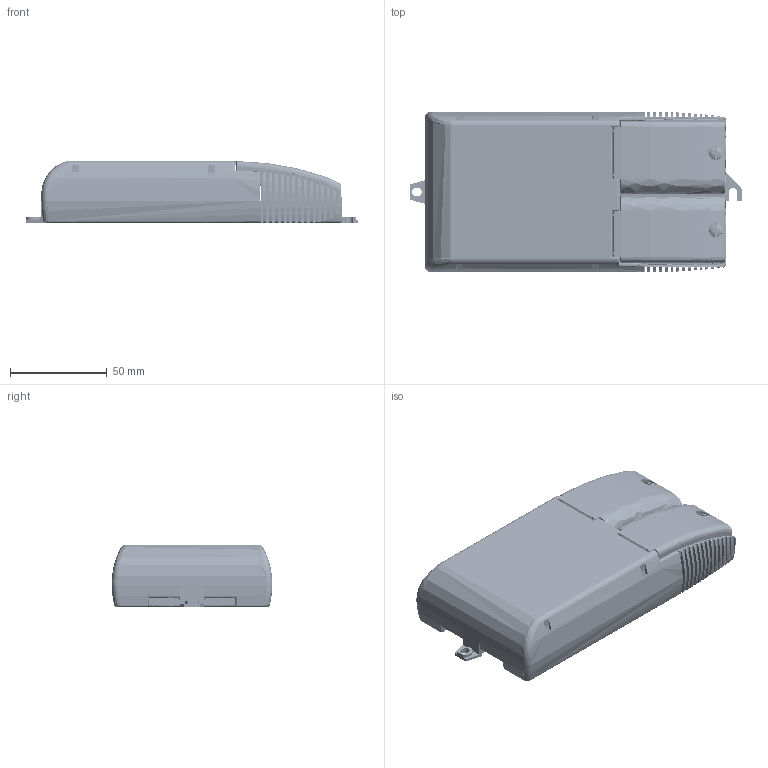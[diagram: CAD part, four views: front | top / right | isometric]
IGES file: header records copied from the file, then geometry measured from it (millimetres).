
Start section: SolidWorks IGES file using analytic representation for surfaces
Global section: file name: C:\Temp\OLQ-batchEngine\queue\temp_\4326890swm000.igs; native system: SolidWorks 2020; preprocessor: SolidWorks 2020; author: SYSTEM; date: 210708.052325; units: millimetre
Bounding box: 172.03 x 83.3 x 32 mm (x, y, z)
Surface area: 73308.3 mm2 (no closed solid volume)
Topology: 0 solids, 0 shells, 3906 faces, 39118 edges, 39050 vertices
Faces by surface type: bspline 2901, revolution 1005
